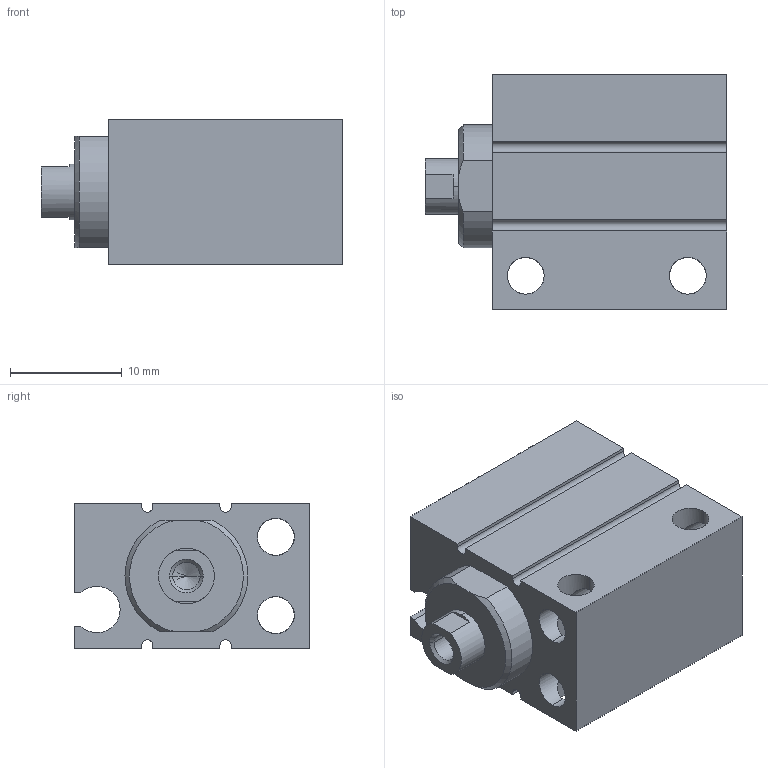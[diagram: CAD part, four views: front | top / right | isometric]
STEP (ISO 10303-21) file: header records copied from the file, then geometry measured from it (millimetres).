
FILE_DESCRIPTION (( 'STEP AP203' ), '1' );
FILE_NAME ('CLJB8-8.STEP', '2020-07-30T18:44:59', ( '' ), ( '' ), 'SwSTEP 2.0', 'SolidWorks 2019', '' );
FILE_SCHEMA (( 'CONFIG_CONTROL_DESIGN' ));
Length unit declared in the file: millimetre
Products named in the file (1): CLJB8-8
Bounding box: 27 x 21 x 13 mm (x, y, z)
Volume: 4917 mm3; surface area: 3685.2 mm2
Topology: 2 solids, 2 shells, 96 faces, 252 edges, 153 vertices
Faces by surface type: cylinder 49, plane 33, cone 14
Entity records: 2995 total; most frequent: CARTESIAN_POINT 604, ORIENTED_EDGE 492, DIRECTION 482, EDGE_CURVE 246, AXIS2_PLACEMENT_3D 175, VERTEX_POINT 153, VECTOR 132, LINE 132
